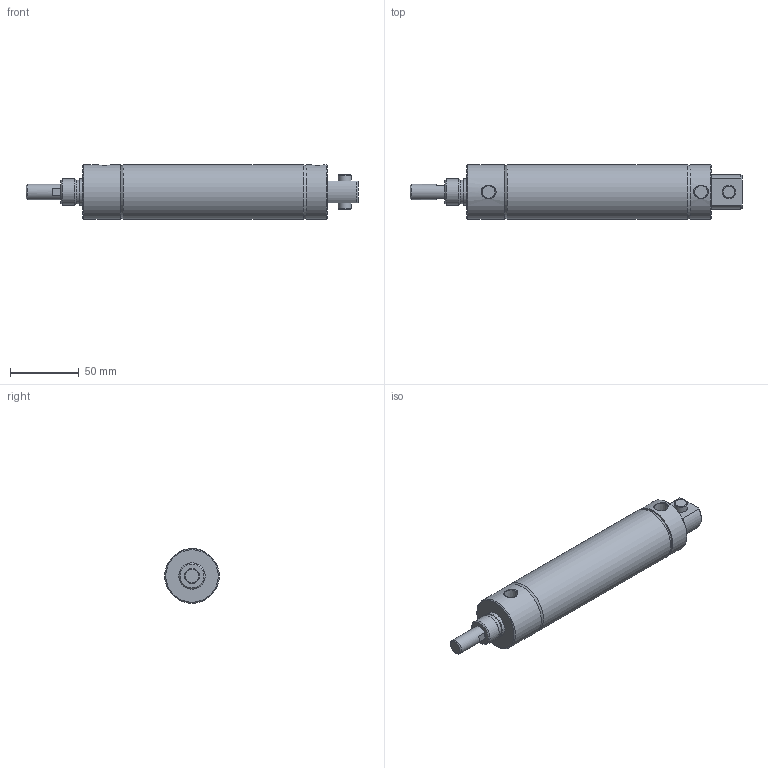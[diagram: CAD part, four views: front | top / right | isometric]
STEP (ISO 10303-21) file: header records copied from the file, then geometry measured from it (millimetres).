
FILE_DESCRIPTION( ( 'STEP AP214' ), '1' );
FILE_NAME( 'p:/temp/worker_524/temp/exporttempdir_5396_128_AhXkw/format_0/1500D02-04A-03.stp', '2020-05-07T18:42:56', ( 'License CC BY-ND 4.0' ), ( 'CADENAS' ), ' ', 'PARTsolutions', ' ' );
FILE_SCHEMA( ( 'AUTOMOTIVE_DESIGN { 1 0 10303 214 1 1 1 1 }' ) );
Length unit declared in the file: inch
Products named in the file (3): 1500D02-04A-03; _1500D02-04A-0300A00A0b; _1500D02-04A-0300A00A0r
Assembly tree (2 placements, depth 2):
  1500D02-04A-03
    _1500D02-04A-0300A00A0b
    _1500D02-04A-0300A00A0r
Bounding box: 241.3 x 39.7 x 39.7 mm (x, y, z)
Volume: 127905.9 mm3; surface area: 59502.6 mm2
Topology: 2 solids, 2 shells, 55 faces, 99 edges, 63 vertices
Faces by surface type: plane 25, cylinder 15, cone 15
Full cylindrical faces by diameter (mm): 9.525 x2, 11.125 x3, 17.178 x1, 19.05 x2, 38.1 x2, 39.7 x3
Entity records: 1834 total; most frequent: CARTESIAN_POINT 348, DIRECTION 228, ORIENTED_EDGE 140, AXIS2_PLACEMENT_3D 106, EDGE_LOOP 96, EDGE_CURVE 70, FACE_OUTER_BOUND 68, VERTEX_POINT 60
